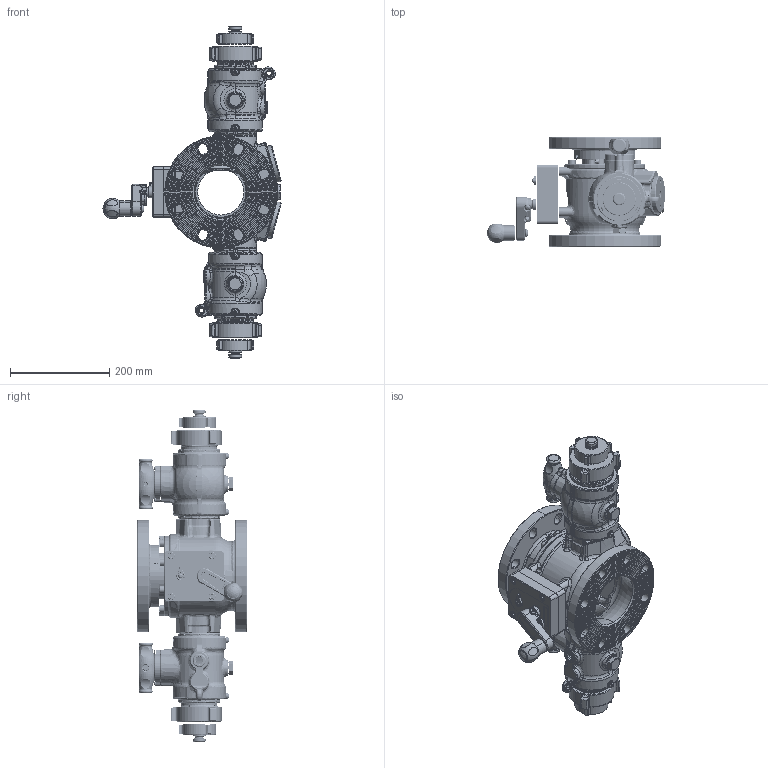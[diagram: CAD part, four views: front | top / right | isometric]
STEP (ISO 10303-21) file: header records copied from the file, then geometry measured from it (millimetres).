
FILE_DESCRIPTION (( 'STEP AP203' ), '1' );
FILE_NAME ('AKP134114D.STEP', '2014-09-29T18:17:54', ( '' ), ( '' ), 'SwSTEP 2.0', 'SolidWorks 2014', '' );
FILE_SCHEMA (( 'CONFIG_CONTROL_DESIGN' ));
Length unit declared in the file: inch
Products named in the file (1): AKP134114D
Bounding box: 358.67 x 221.11 x 668.85 mm (x, y, z)
Surface area: 730180.6 mm2 (no closed solid volume)
Topology: 0 solids, 113 shells, 3359 faces, 10616 edges, 7002 vertices
Faces by surface type: torus 871, cylinder 709, plane 646, bspline 572, cone 529, sphere 32
Entity records: 160526 total; most frequent: CARTESIAN_POINT 75441, ORIENTED_EDGE 17922, DIRECTION 16363, EDGE_CURVE 10510, VERTEX_POINT 6987, AXIS2_PLACEMENT_3D 6755, CIRCLE 3967, EDGE_LOOP 3559
